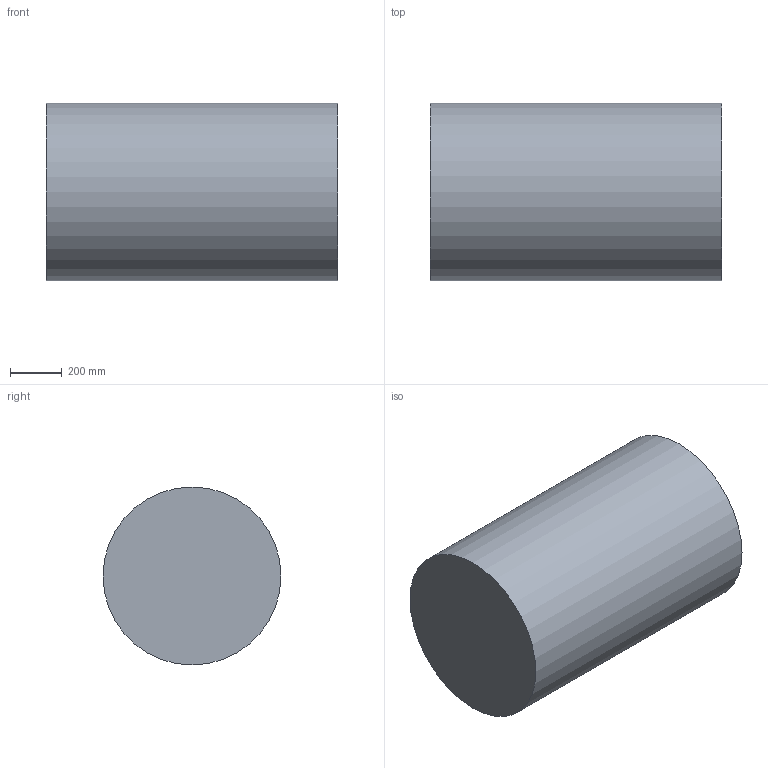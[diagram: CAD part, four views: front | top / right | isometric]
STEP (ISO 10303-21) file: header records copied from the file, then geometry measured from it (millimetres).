
FILE_DESCRIPTION(/* description */ ('ACIS model converted to STEP'),/* implementation_level */ '2;1');
FILE_NAME(/* name */ 'jpl_demo_012103_ap238wSTEPnormalZ',/* time_stamp */ '2003-01-21T13:51:20-06:00',/* author */ ('Me'),/* organization */ ('Company'),/* preprocessor_version */ 'ST-DEVELOPER v9',/* originating_system */ 'ACIS 5.x',/* authorisation */ 'Someone else');
FILE_SCHEMA (('INTEGRATED_CNC_SCHEMA'));
Length unit declared in the file: inch
Products named in the file (3): strepo_4
Bounding box: 1123.95 x 685.8 x 685.8 mm (x, y, z)
Volume: 426500966.5 mm3; surface area: 4059071.9 mm2
Topology: 2 solids, 2 shells, 45 faces, 124 edges, 83 vertices
Faces by surface type: plane 33, cylinder 12
Full cylindrical faces by diameter (mm): 59.4 x2, 66 x2, 685.8 x1
Entity records: 6702 total; most frequent: CARTESIAN_POINT 936, DIRECTION 866, VECTOR 503, ORIENTED_EDGE 476, EDGE_CURVE 357, AXIS2_PLACEMENT_3D 350, VERTEX_POINT 323, LINE 239
